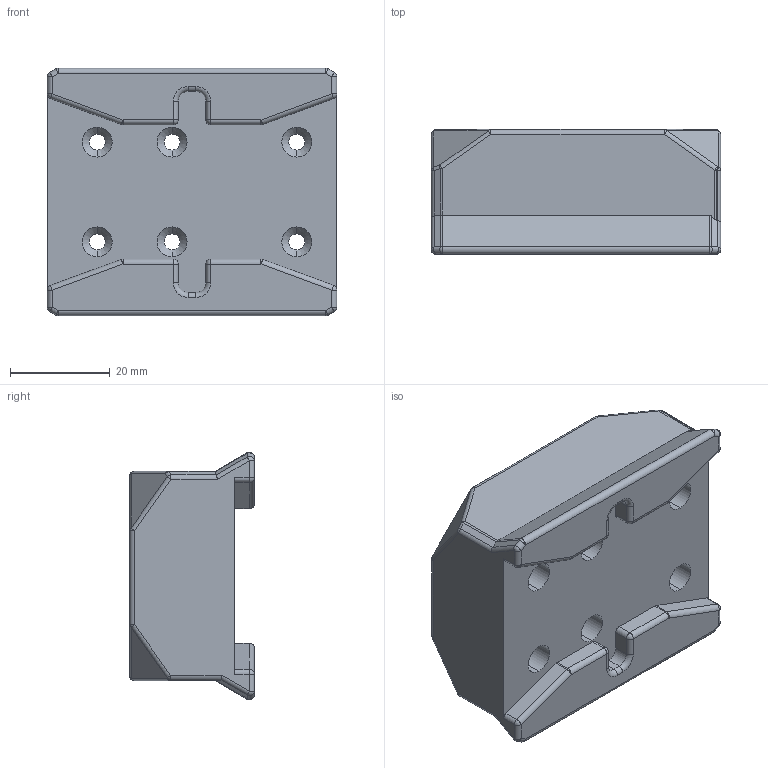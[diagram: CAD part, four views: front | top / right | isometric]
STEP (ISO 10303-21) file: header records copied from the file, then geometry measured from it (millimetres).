
FILE_DESCRIPTION (( 'STEP AP214' ), '1' );
FILE_NAME ('云台配件3.STEP', '2026-09-29T03:22:44', ( '微软用户' ), ( '微软中国' ), 'SwSTEP 2.0', 'SolidWorks 2016', '' );
FILE_SCHEMA (( 'AUTOMOTIVE_DESIGN' ));
Length unit declared in the file: millimetre
Products named in the file (1): 堁怢饜璃3
Bounding box: 58 x 25 x 49.59 mm (x, y, z)
Volume: 41202.3 mm3; surface area: 13959.4 mm2
Topology: 1 solids, 1 shells, 229 faces, 552 edges, 306 vertices
Faces by surface type: cylinder 120, plane 57, sphere 36, cone 12, torus 4
Entity records: 6464 total; most frequent: DIRECTION 1208, CARTESIAN_POINT 1104, ORIENTED_EDGE 1064, EDGE_CURVE 532, AXIS2_PLACEMENT_3D 458, VERTEX_POINT 306, LINE 292, VECTOR 292
